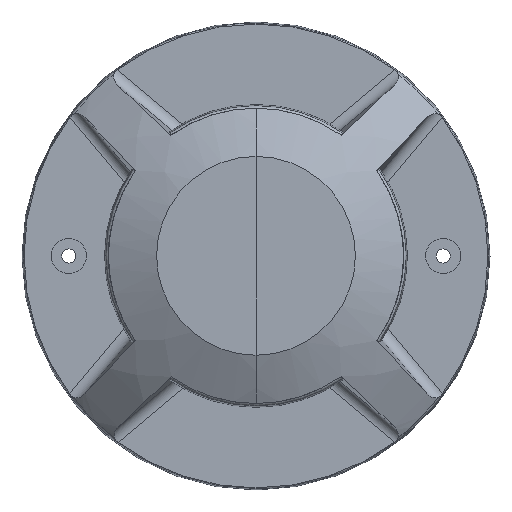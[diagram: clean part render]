
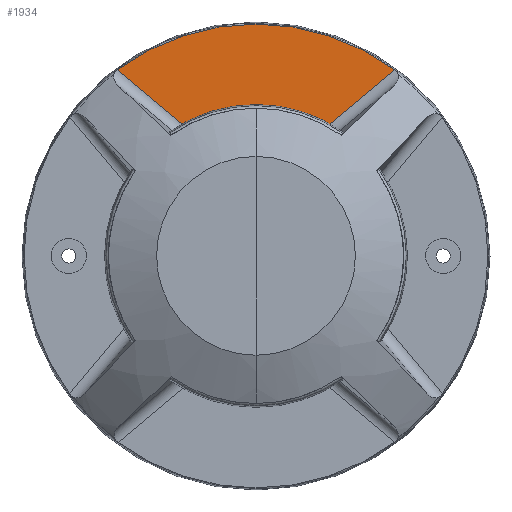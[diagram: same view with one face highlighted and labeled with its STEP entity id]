
A CAD part, top view. The second image highlights one B-rep face of the part: STEP entity #1934.
In plain terms, the highlighted planar face has unit normal (0, 0, 1).
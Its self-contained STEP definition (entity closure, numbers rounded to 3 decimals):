
#181=LINE('',#2994,#333);
#213=LINE('',#3247,#365);
#333=VECTOR('',#2418,304.8);
#365=VECTOR('',#2482,304.8);
#462=PLANE('',#2092);
#547=FACE_OUTER_BOUND('',#654,.T.);
#654=EDGE_LOOP('',(#1548,#1549,#1550,#1551,#1552));
#754=CIRCLE('',#2093,99.115);
#755=CIRCLE('',#2094,99.115);
#756=CIRCLE('',#2095,64.312);
#873=VERTEX_POINT('',#2974);
#874=VERTEX_POINT('',#2993);
#911=VERTEX_POINT('',#3245);
#912=VERTEX_POINT('',#3246);
#916=VERTEX_POINT('',#3300);
#1096=EDGE_CURVE('',#874,#873,#181,.T.);
#1145=EDGE_CURVE('',#911,#912,#213,.T.);
#1152=EDGE_CURVE('',#916,#912,#754,.T.);
#1153=EDGE_CURVE('',#874,#916,#755,.T.);
#1154=EDGE_CURVE('',#911,#873,#756,.T.);
#1548=ORIENTED_EDGE('',*,*,#1145,.T.);
#1549=ORIENTED_EDGE('',*,*,#1152,.F.);
#1550=ORIENTED_EDGE('',*,*,#1153,.F.);
#1551=ORIENTED_EDGE('',*,*,#1096,.T.);
#1552=ORIENTED_EDGE('',*,*,#1154,.F.);
#1934=ADVANCED_FACE('',(#547),#462,.F.);
#2092=AXIS2_PLACEMENT_3D('',#3299,#2488,#2489);
#2093=AXIS2_PLACEMENT_3D('',#3301,#2490,#2491);
#2094=AXIS2_PLACEMENT_3D('',#3302,#2492,#2493);
#2095=AXIS2_PLACEMENT_3D('',#3303,#2494,#2495);
#2418=DIRECTION('',(0.765,-0.644,0.));
#2482=DIRECTION('',(0.765,0.644,0.));
#2488=DIRECTION('center_axis',(0.,0.,-1.));
#2489=DIRECTION('ref_axis',(-0.512,0.859,0.));
#2490=DIRECTION('center_axis',(0.,0.,-1.));
#2491=DIRECTION('ref_axis',(1.,0.,0.));
#2492=DIRECTION('center_axis',(0.,0.,-1.));
#2493=DIRECTION('ref_axis',(1.,0.,0.));
#2494=DIRECTION('center_axis',(0.,0.,1.));
#2495=DIRECTION('ref_axis',(1.,0.,0.));
#2974=CARTESIAN_POINT('',(-31.351,56.153,8.));
#2993=CARTESIAN_POINT('',(-59.15,79.531,8.));
#2994=CARTESIAN_POINT('',(-59.15,79.531,8.));
#3245=CARTESIAN_POINT('',(31.351,56.153,8.));
#3246=CARTESIAN_POINT('',(59.15,79.531,8.));
#3247=CARTESIAN_POINT('',(31.351,56.153,8.));
#3299=CARTESIAN_POINT('Origin',(0.,0.,
8.));
#3300=CARTESIAN_POINT('',(0.,99.115,8.));
#3301=CARTESIAN_POINT('Origin',(0.,0.,8.));
#3302=CARTESIAN_POINT('Origin',(0.,0.,8.));
#3303=CARTESIAN_POINT('Origin',(0.,0.,8.));
